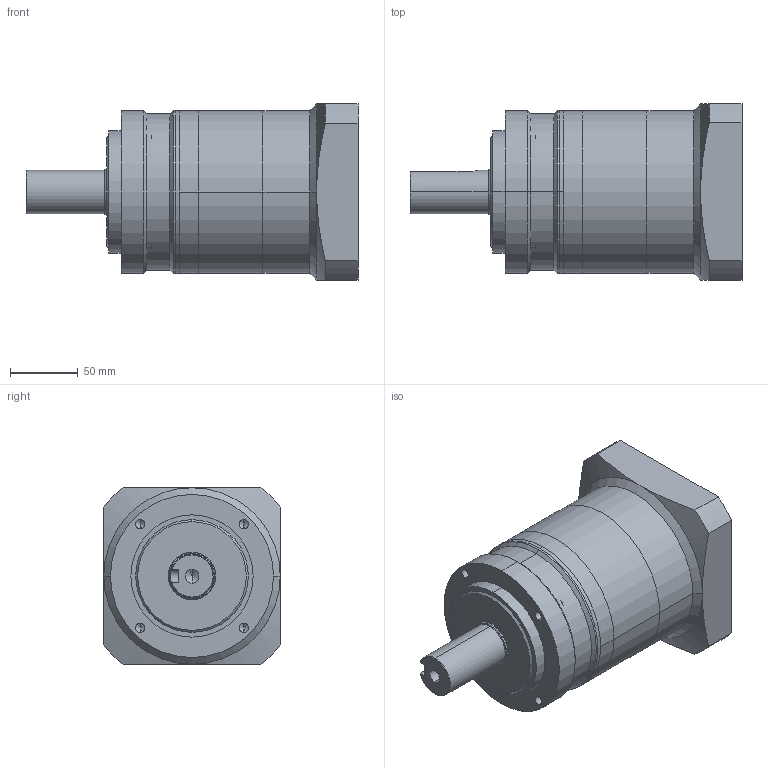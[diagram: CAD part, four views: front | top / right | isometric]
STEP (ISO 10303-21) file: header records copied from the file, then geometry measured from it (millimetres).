
FILE_DESCRIPTION (( 'STEP AP203' ), '1' );
FILE_NAME ('TL-120-L2-22-110-145-M8.STEP', '2025-06-06T06:13:46', ( 'Microsoft' ), ( 'Microsoft' ), 'SwSTEP 2.0', 'SolidWorks 2016', '' );
FILE_SCHEMA (( 'CONFIG_CONTROL_DESIGN' ));
Length unit declared in the file: millimetre
Products named in the file (1): TL-120-L2-22-110-145-M8
Bounding box: 244.5 x 130 x 130 mm (x, y, z)
Volume: 2048634.3 mm3; surface area: 222580.6 mm2
Topology: 6 solids, 6 shells, 114 faces, 245 edges, 141 vertices
Faces by surface type: cylinder 51, cone 32, plane 26, bspline 5
Entity records: 3160 total; most frequent: CARTESIAN_POINT 674, DIRECTION 547, ORIENTED_EDGE 454, EDGE_CURVE 227, AXIS2_PLACEMENT_3D 226, VERTEX_POINT 141, EDGE_LOOP 130, CIRCLE 116
